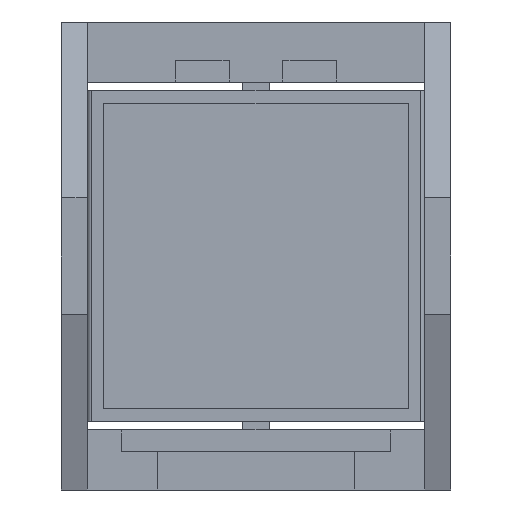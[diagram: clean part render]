
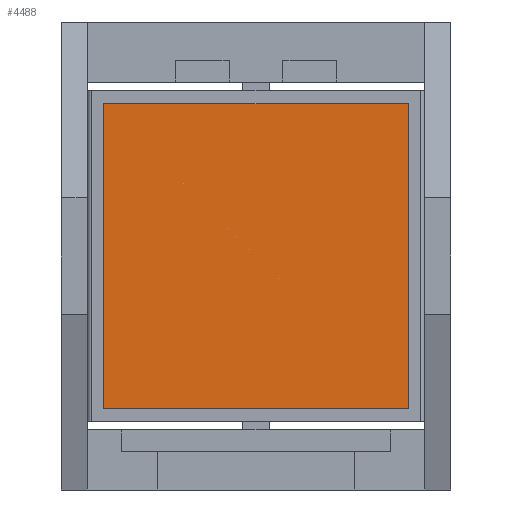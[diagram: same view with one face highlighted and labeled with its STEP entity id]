
A CAD part, front view. The second image highlights one B-rep face of the part: STEP entity #4488.
In plain terms, the highlighted planar face has unit normal (0, -1, 0).
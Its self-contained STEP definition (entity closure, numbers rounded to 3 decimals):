
#291 = FACE_OUTER_BOUND ( 'NONE', #5027, .T. ) ;
#517 = VERTEX_POINT ( 'NONE', #4008 ) ;
#1249 = CARTESIAN_POINT ( 'NONE',  ( 7.989, -2.481, -6.631 ) ) ;
#1309 = VERTEX_POINT ( 'NONE', #1383 ) ;
#1383 = CARTESIAN_POINT ( 'NONE',  ( -9.011, -2.481, -6.631 ) ) ;
#1390 = EDGE_CURVE ( 'NONE', #1969, #5268, #2939, .T. ) ;
#1621 = CARTESIAN_POINT ( 'NONE',  ( -9.011, -2.481, -6.631 ) ) ;
#1649 = AXIS2_PLACEMENT_3D ( 'NONE', #1812, #3846, #5296 ) ;
#1687 = DIRECTION ( 'NONE',  ( -1., 0., 0. ) ) ;
#1812 = CARTESIAN_POINT ( 'NONE',  ( -9.011, -2.481, 10.369 ) ) ;
#1969 = VERTEX_POINT ( 'NONE', #4552 ) ;
#2157 = VECTOR ( 'NONE', #1687, 1000. ) ;
#2286 = ORIENTED_EDGE ( 'NONE', *, *, #3279, .F. ) ;
#2306 = VECTOR ( 'NONE', #5945, 1000. ) ;
#2695 = LINE ( 'NONE', #1249, #5884 ) ;
#2939 = LINE ( 'NONE', #4933, #2306 ) ;
#2940 = LINE ( 'NONE', #4934, #4372 ) ;
#3013 = EDGE_CURVE ( 'NONE', #5268, #517, #2695, .T. ) ;
#3065 = ORIENTED_EDGE ( 'NONE', *, *, #3013, .F. ) ;
#3200 = ORIENTED_EDGE ( 'NONE', *, *, #1390, .F. ) ;
#3279 = EDGE_CURVE ( 'NONE', #1309, #1969, #2940, .T. ) ;
#3726 = EDGE_CURVE ( 'NONE', #517, #1309, #4124, .T. ) ;
#3846 = DIRECTION ( 'NONE',  ( 0., 1., 0. ) ) ;
#3922 = DIRECTION ( 'NONE',  ( 0., 0., 1. ) ) ;
#4008 = CARTESIAN_POINT ( 'NONE',  ( 7.989, -2.481, -6.631 ) ) ;
#4037 = CARTESIAN_POINT ( 'NONE',  ( 7.989, -2.481, 10.369 ) ) ;
#4124 = LINE ( 'NONE', #1621, #2157 ) ;
#4253 = DIRECTION ( 'NONE',  ( 0., 0., -1. ) ) ;
#4372 = VECTOR ( 'NONE', #3922, 1000. ) ;
#4488 = ADVANCED_FACE ( 'NONE', ( #291 ), #6324, .F. ) ;
#4552 = CARTESIAN_POINT ( 'NONE',  ( -9.011, -2.481, 10.369 ) ) ;
#4933 = CARTESIAN_POINT ( 'NONE',  ( -9.011, -2.481, 10.369 ) ) ;
#4934 = CARTESIAN_POINT ( 'NONE',  ( -9.011, -2.481, -6.631 ) ) ;
#5027 = EDGE_LOOP ( 'NONE', ( #2286, #5287, #3065, #3200 ) ) ;
#5268 = VERTEX_POINT ( 'NONE', #4037 ) ;
#5287 = ORIENTED_EDGE ( 'NONE', *, *, #3726, .F. ) ;
#5296 = DIRECTION ( 'NONE',  ( 0., 0., 1. ) ) ;
#5884 = VECTOR ( 'NONE', #4253, 1000. ) ;
#5945 = DIRECTION ( 'NONE',  ( 1., 0., 0. ) ) ;
#6324 = PLANE ( 'NONE',  #1649 ) ;
